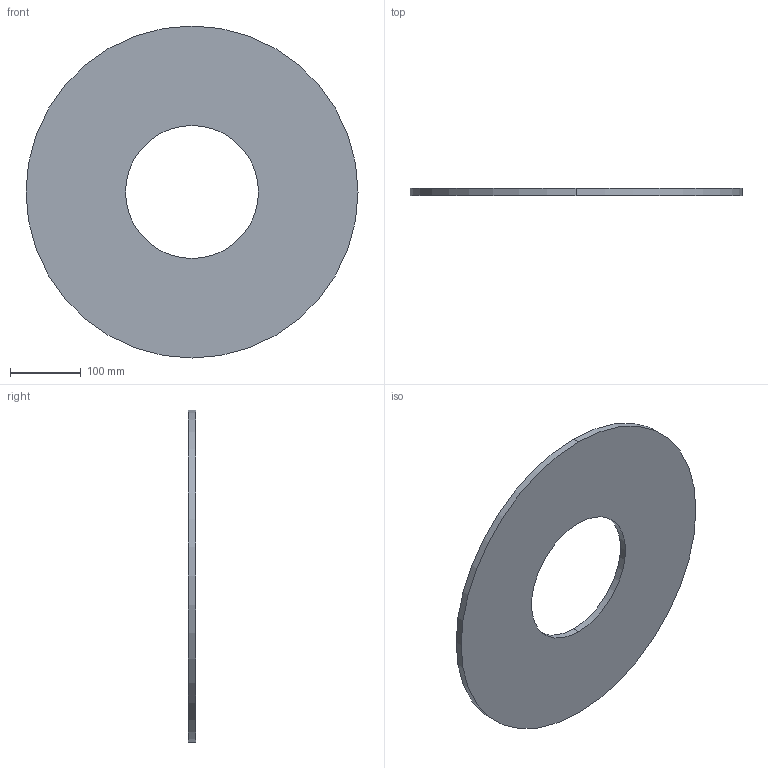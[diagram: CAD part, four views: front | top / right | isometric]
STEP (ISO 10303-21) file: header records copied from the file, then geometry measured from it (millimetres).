
FILE_DESCRIPTION (( 'STEP AP203' ), '1' );
FILE_NAME ('3D_R152_DN139_17305275.STEP', '2024-08-13T07:53:50', ( '' ), ( '' ), 'SwSTEP 2.0', 'SolidWorks 2024', '' );
FILE_SCHEMA (( 'CONFIG_CONTROL_DESIGN' ));
Length unit declared in the file: millimetre
Products named in the file (1): 3D_R152_DN139_17305275
Bounding box: 469.4 x 10 x 469.4 mm (x, y, z)
Volume: 1452926.6 mm3; surface area: 311238.1 mm2
Topology: 1 solids, 1 shells, 6 faces, 12 edges, 8 vertices
Faces by surface type: cylinder 4, plane 2
Entity records: 245 total; most frequent: DIRECTION 34, CARTESIAN_POINT 27, ORIENTED_EDGE 24, AXIS2_PLACEMENT_3D 15, EDGE_CURVE 12, EDGE_LOOP 8, VERTEX_POINT 8, PERSON_AND_ORGANIZATION 8
